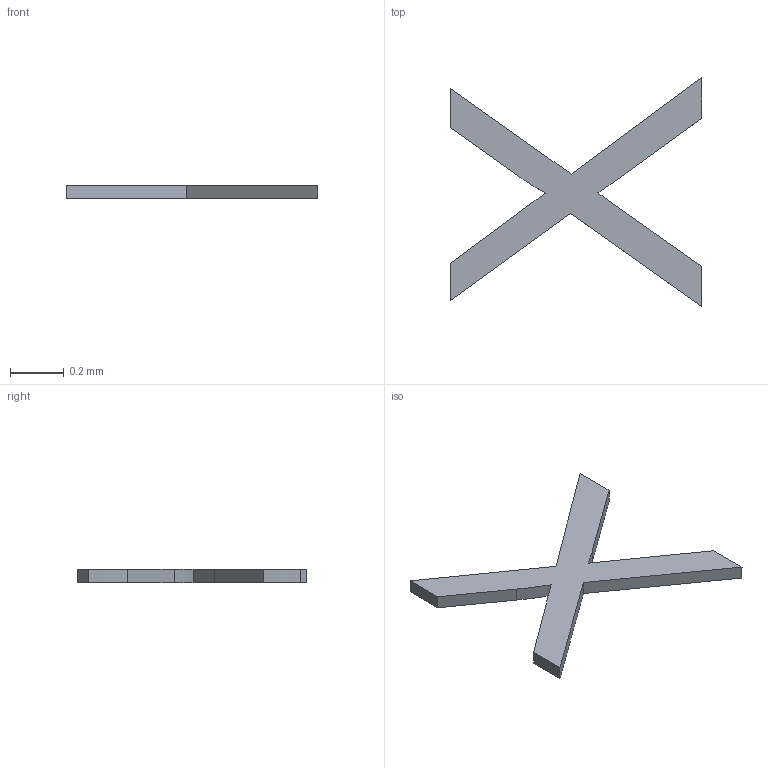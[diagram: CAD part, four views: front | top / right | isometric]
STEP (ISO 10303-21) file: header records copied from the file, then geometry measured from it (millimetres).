
FILE_DESCRIPTION(/* description */ ('STEP AP242 Edition 2','CAx-IF Rec.Pracs.---Representation and Presentation of Product Manufacturing Information (PMI)---4.0---2014-10-13','CAx-IF Rec.Pracs.---3D Tessellated Geometry---0.4---2014-09-14','2;1','CAx-IF Rec.Pracs.---User Defined Attributes---1.5---2016-08-15'),/* implementation_level */ '2;1');
FILE_NAME(/* name */ 'Drone Layout - Surface 314',/* time_stamp */ '2026-10-04T22:22:55Z',/* author */ (''),/* organization */ (''),/* preprocessor_version */ 'ST-DEVELOPER v20',/* originating_system */ 'ONSHAPE BY PTC INC, 1.221',/* authorisation */ ' ');
FILE_SCHEMA (('AP242_MANAGED_MODEL_BASED_3D_ENGINEERING_MIM_LF { 1 0 10303 442 3 1 4 }'));
Length unit declared in the file: metre
Products named in the file (1): Text_XDA
Bounding box: 0.93 x 0.85 x 0.05 mm (x, y, z)
Volume: 0 mm3; surface area: 0.8 mm2
Topology: 1 solids, 1 shells, 18 faces, 48 edges, 32 vertices
Faces by surface type: plane 16, cylinder 2
Entity records: 577 total; most frequent: CARTESIAN_POINT 123, ORIENTED_EDGE 96, DIRECTION 82, EDGE_CURVE 48, LINE 36, VECTOR 36, VERTEX_POINT 32, AXIS2_PLACEMENT_3D 23
